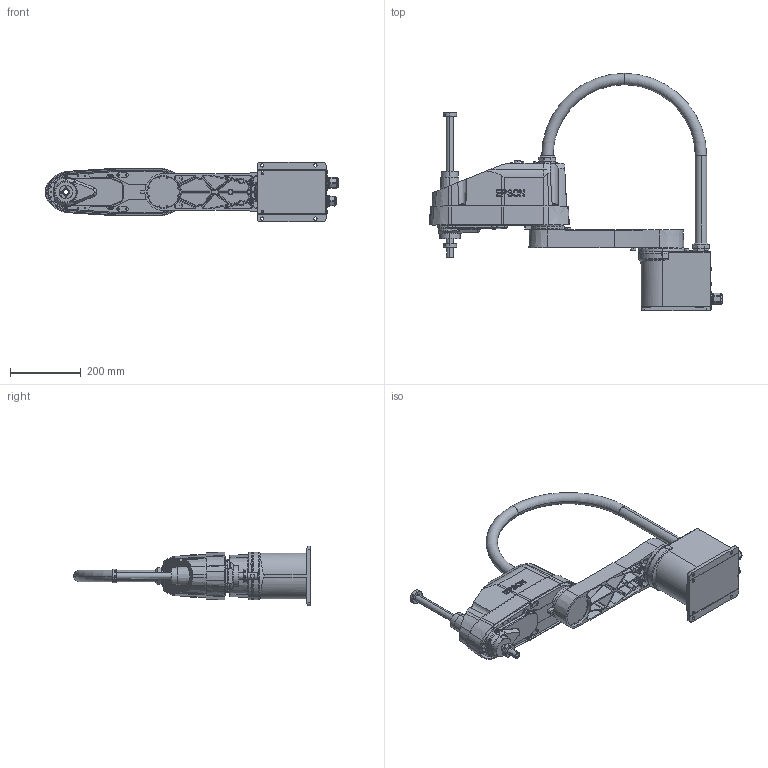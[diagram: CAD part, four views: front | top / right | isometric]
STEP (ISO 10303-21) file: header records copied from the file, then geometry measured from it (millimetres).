
FILE_DESCRIPTION (( 'STEP AP214' ), '1' );
FILE_NAME ('LA6-x602S.STEP', '2026-07-14T23:02:00', ( '' ), ( '' ), 'SwSTEP 2.0', 'SolidWorks 2020', '' );
FILE_SCHEMA (( 'AUTOMOTIVE_DESIGN' ));
Length unit declared in the file: millimetre
Products named in the file (6): LA6-A_BASE_1; LA6-A602_CONDUIT; LA6-A602_J1_ARM; LA6-x602S; LA6-A_J2_ARM_1; LA6-A_Z_AXIS_1
Assembly tree (5 placements, depth 2):
  LA6-x602S
    LA6-A_BASE_1
    LA6-A602_J1_ARM
    LA6-A_J2_ARM_1
    LA6-A_Z_AXIS_1
    LA6-A602_CONDUIT
Bounding box: 827.53 x 670 x 169 mm (x, y, z)
Volume: 12781219.2 mm3; surface area: 965760.7 mm2
Topology: 5 solids, 5 shells, 2341 faces, 6054 edges, 3911 vertices
Faces by surface type: plane 1301, cone 488, cylinder 454, torus 68, sphere 22, bspline 8
Entity records: 87615 total; most frequent: CARTESIAN_POINT 19953, DIRECTION 12332, ORIENTED_EDGE 12016, EDGE_CURVE 6008, AXIS2_PLACEMENT_3D 4337, VERTEX_POINT 3911, VECTOR 3658, LINE 3658
